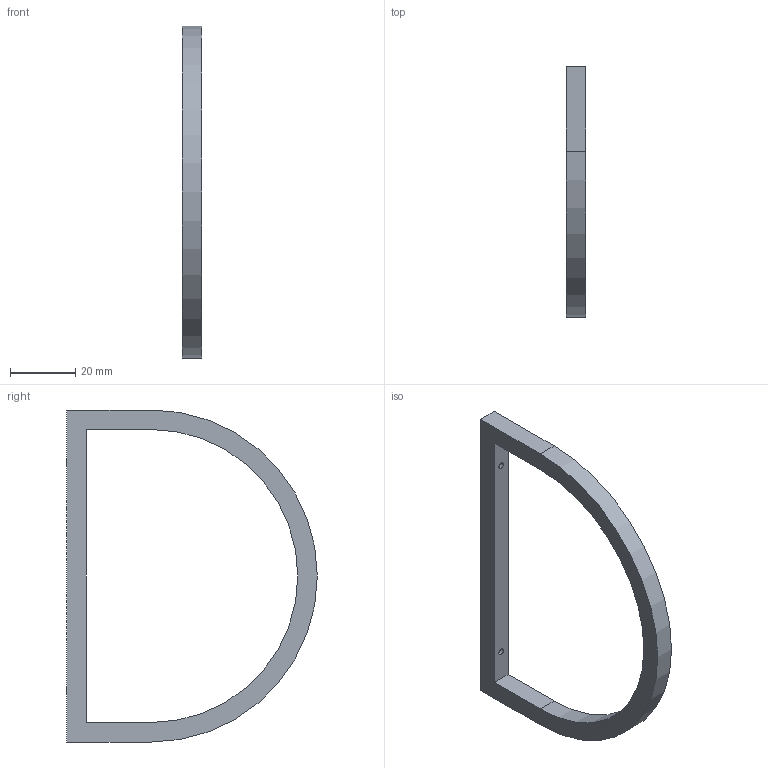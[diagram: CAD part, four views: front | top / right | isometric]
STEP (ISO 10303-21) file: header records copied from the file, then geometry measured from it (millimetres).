
FILE_DESCRIPTION(/* description */ (''),/* implementation_level */ '2;1');
FILE_NAME(/* name */ '',/* time_stamp */ '2026-04-10T14:32:01+02:00',/* author */ (''),/* organization */ (''),/* preprocessor_version */ 'ST-DEVELOPER v20.1',/* originating_system */ 'Autodesk Translation Framework v14.24.0.0',/* authorisation */ '');
FILE_SCHEMA (('AUTOMOTIVE_DESIGN { 1 0 10303 214 3 1 1 }'));
Length unit declared in the file: millimetre
Products named in the file (1): (Niezapisany)
Bounding box: 6 x 77 x 102 mm (x, y, z)
Volume: 10503 mm3; surface area: 7089.9 mm2
Topology: 1 solids, 1 shells, 12 faces, 30 edges, 20 vertices
Faces by surface type: plane 8, cylinder 4
Full cylindrical faces by diameter (mm): 2 x2
Entity records: 407 total; most frequent: DIRECTION 64, CARTESIAN_POINT 63, ORIENTED_EDGE 60, EDGE_CURVE 30, LINE 22, VECTOR 22, AXIS2_PLACEMENT_3D 21, VERTEX_POINT 20
